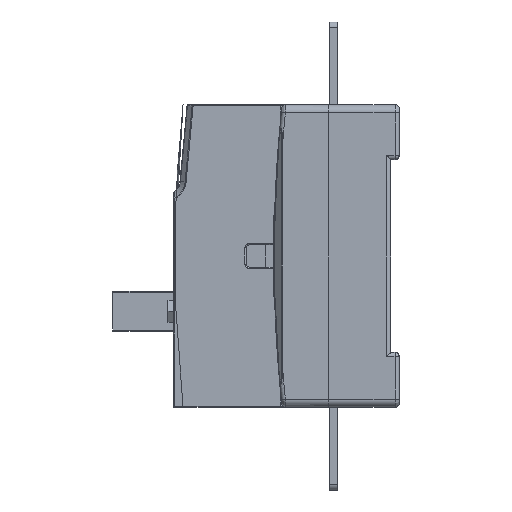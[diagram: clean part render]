
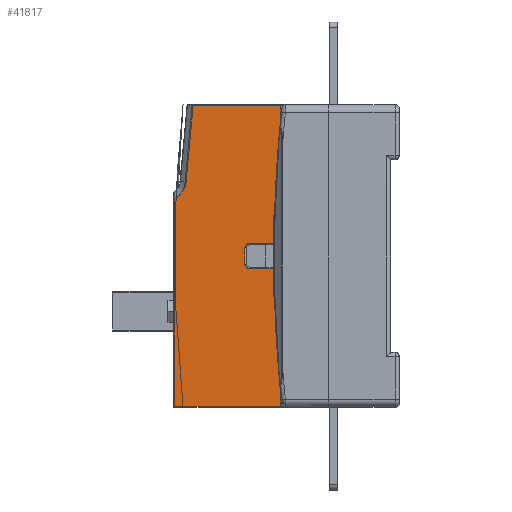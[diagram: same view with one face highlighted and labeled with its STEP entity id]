
A CAD part, left-side view. The second image highlights one B-rep face of the part: STEP entity #41817.
In plain terms, the highlighted planar face has unit normal (-1, 0, 0).
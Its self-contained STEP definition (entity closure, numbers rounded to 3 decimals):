
#36724=DIRECTION('',(0.,-1.,0.));
#36725=VECTOR('',#36724,1.5);
#36726=CARTESIAN_POINT('',(-37.5,46.,13.5));
#36727=LINE('',#36726,#36725);
#36979=DIRECTION('',(0.,0.,-1.));
#36980=VECTOR('',#36979,9.);
#36981=CARTESIAN_POINT('',(-37.5,46.,13.5));
#36982=LINE('',#36981,#36980);
#36983=CARTESIAN_POINT('',(-37.5,56.,3.));
#36984=DIRECTION('',(-1.,0.,0.));
#36985=DIRECTION('',(0.,0.,1.));
#36986=AXIS2_PLACEMENT_3D('',#36983,#36984,#36985);
#36988=CARTESIAN_POINT('',(-37.5,56.,-3.));
#36989=DIRECTION('',(-1.,0.,0.));
#36990=DIRECTION('',(0.,1.,0.));
#36991=AXIS2_PLACEMENT_3D('',#36988,#36989,#36990);
#36993=DIRECTION('',(0.,-1.,0.));
#36994=VECTOR('',#36993,1.5);
#36995=CARTESIAN_POINT('',(-37.5,46.,-13.5));
#36996=LINE('',#36995,#36994);
#36997=CARTESIAN_POINT('',(-37.5,86.598,27.544));
#36998=DIRECTION('',(-1.,0.,0.));
#36999=DIRECTION('',(0.,-0.467,-0.884));
#37000=AXIS2_PLACEMENT_3D('',#36997,#36998,#36999);
#37002=DIRECTION('',(0.,-0.093,0.996));
#37003=VECTOR('',#37002,27.796);
#37004=CARTESIAN_POINT('',(-37.5,78.925,26.825));
#37005=LINE('',#37004,#37003);
#37015=DIRECTION('',(0.,0.,1.));
#37016=VECTOR('',#37015,41.);
#37017=CARTESIAN_POINT('',(-37.5,44.5,13.5));
#37018=LINE('',#37017,#37016);
#37038=DIRECTION('',(0.,1.,0.));
#37039=VECTOR('',#37038,31.83);
#37040=CARTESIAN_POINT('',(-37.5,44.5,54.5));
#37041=LINE('',#37040,#37039);
#38948=DIRECTION('',(0.,-1.,0.));
#38949=VECTOR('',#38948,38.5);
#38950=CARTESIAN_POINT('',(-37.5,83.,-54.5));
#38951=LINE('',#38950,#38949);
#38980=DIRECTION('',(0.,0.,1.));
#38981=VECTOR('',#38980,41.);
#38982=CARTESIAN_POINT('',(-37.5,44.5,-54.5));
#38983=LINE('',#38982,#38981);
#38988=DIRECTION('',(0.,0.,-1.));
#38989=VECTOR('',#38988,75.229);
#38990=CARTESIAN_POINT('',(-37.5,83.,20.729));
#38991=LINE('',#38990,#38989);
#40188=DIRECTION('',(0.,0.,1.));
#40189=VECTOR('',#40188,9.);
#40190=CARTESIAN_POINT('',(-37.5,46.,-13.5));
#40191=LINE('',#40190,#40189);
#40204=DIRECTION('',(0.,1.,0.));
#40205=VECTOR('',#40204,10.);
#40206=CARTESIAN_POINT('',(-37.5,46.,-4.5));
#40207=LINE('',#40206,#40205);
#40242=DIRECTION('',(0.,0.,1.));
#40243=VECTOR('',#40242,6.);
#40244=CARTESIAN_POINT('',(-37.5,57.5,-3.));
#40245=LINE('',#40244,#40243);
#40269=DIRECTION('',(0.,-1.,0.));
#40270=VECTOR('',#40269,10.);
#40271=CARTESIAN_POINT('',(-37.5,56.,4.5));
#40272=LINE('',#40271,#40270);
#40579=CARTESIAN_POINT('',(-37.5,44.5,-13.5));
#40581=VERTEX_POINT('',#40579);
#40583=CARTESIAN_POINT('',(-37.5,46.,-13.5));
#40584=VERTEX_POINT('',#40583);
#40591=CARTESIAN_POINT('',(-37.5,44.5,13.5));
#40592=CARTESIAN_POINT('',(-37.5,44.5,54.5));
#40593=VERTEX_POINT('',#40591);
#40594=VERTEX_POINT('',#40592);
#40595=CARTESIAN_POINT('',(-37.5,46.,13.5));
#40596=VERTEX_POINT('',#40595);
#40597=CARTESIAN_POINT('',(-37.5,46.,4.5));
#40598=VERTEX_POINT('',#40597);
#40599=CARTESIAN_POINT('',(-37.5,56.,4.5));
#40600=VERTEX_POINT('',#40599);
#40601=CARTESIAN_POINT('',(-37.5,57.5,3.));
#40602=VERTEX_POINT('',#40601);
#40603=CARTESIAN_POINT('',(-37.5,57.5,-3.));
#40604=VERTEX_POINT('',#40603);
#40605=CARTESIAN_POINT('',(-37.5,56.,-4.5));
#40606=VERTEX_POINT('',#40605);
#40607=CARTESIAN_POINT('',(-37.5,46.,-4.5));
#40608=VERTEX_POINT('',#40607);
#40609=CARTESIAN_POINT('',(-37.5,44.5,-54.5));
#40610=VERTEX_POINT('',#40609);
#40611=CARTESIAN_POINT('',(-37.5,83.,-54.5));
#40612=VERTEX_POINT('',#40611);
#40613=CARTESIAN_POINT('',(-37.5,83.,20.729));
#40614=VERTEX_POINT('',#40613);
#40615=CARTESIAN_POINT('',(-37.5,78.925,26.825));
#40616=VERTEX_POINT('',#40615);
#40617=CARTESIAN_POINT('',(-37.5,76.33,54.5));
#40618=VERTEX_POINT('',#40617);
#41780=CARTESIAN_POINT('',(-37.5,43.,-55.));
#41781=DIRECTION('',(-1.,0.,0.));
#41782=DIRECTION('',(0.,0.,1.));
#41783=AXIS2_PLACEMENT_3D('',#41780,#41781,#41782);
#41784=PLANE('',#41783);
#41786=ORIENTED_EDGE('',*,*,#41785,.F.);
#41787=ORIENTED_EDGE('',*,*,#41521,.F.);
#41789=ORIENTED_EDGE('',*,*,#41788,.T.);
#41791=ORIENTED_EDGE('',*,*,#41790,.F.);
#41793=ORIENTED_EDGE('',*,*,#41792,.T.);
#41795=ORIENTED_EDGE('',*,*,#41794,.F.);
#41797=ORIENTED_EDGE('',*,*,#41796,.T.);
#41799=ORIENTED_EDGE('',*,*,#41798,.F.);
#41801=ORIENTED_EDGE('',*,*,#41800,.F.);
#41802=ORIENTED_EDGE('',*,*,#41768,.T.);
#41804=ORIENTED_EDGE('',*,*,#41803,.F.);
#41806=ORIENTED_EDGE('',*,*,#41805,.F.);
#41808=ORIENTED_EDGE('',*,*,#41807,.F.);
#41810=ORIENTED_EDGE('',*,*,#41809,.T.);
#41812=ORIENTED_EDGE('',*,*,#41811,.T.);
#41814=ORIENTED_EDGE('',*,*,#41813,.F.);
#41815=EDGE_LOOP('',(#41786,#41787,#41789,#41791,#41793,#41795,#41797,#41799,
#41801,#41802,#41804,#41806,#41808,#41810,#41812,#41814));
#41816=FACE_OUTER_BOUND('',#41815,.F.);
#36987=CIRCLE('',#36986,1.5);
#36992=CIRCLE('',#36991,1.5);
#37001=CIRCLE('',#37000,7.707);
#41521=EDGE_CURVE('',#40596,#40593,#36727,.T.);
#41768=EDGE_CURVE('',#40584,#40581,#36996,.T.);
#41785=EDGE_CURVE('',#40593,#40594,#37018,.T.);
#41788=EDGE_CURVE('',#40596,#40598,#36982,.T.);
#41790=EDGE_CURVE('',#40600,#40598,#40272,.T.);
#41792=EDGE_CURVE('',#40600,#40602,#36987,.T.);
#41794=EDGE_CURVE('',#40604,#40602,#40245,.T.);
#41796=EDGE_CURVE('',#40604,#40606,#36992,.T.);
#41798=EDGE_CURVE('',#40608,#40606,#40207,.T.);
#41800=EDGE_CURVE('',#40584,#40608,#40191,.T.);
#41803=EDGE_CURVE('',#40610,#40581,#38983,.T.);
#41805=EDGE_CURVE('',#40612,#40610,#38951,.T.);
#41807=EDGE_CURVE('',#40614,#40612,#38991,.T.);
#41809=EDGE_CURVE('',#40614,#40616,#37001,.T.);
#41811=EDGE_CURVE('',#40616,#40618,#37005,.T.);
#41813=EDGE_CURVE('',#40594,#40618,#37041,.T.);
#41817=ADVANCED_FACE('',(#41816),#41784,.T.);
